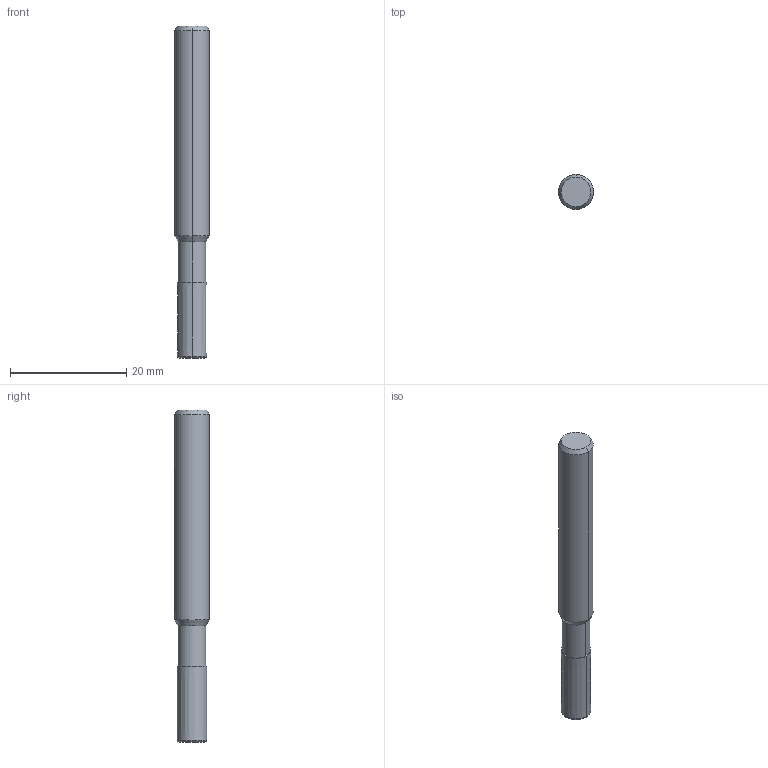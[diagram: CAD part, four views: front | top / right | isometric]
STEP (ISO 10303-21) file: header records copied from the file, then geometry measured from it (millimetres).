
FILE_DESCRIPTION(('no description'),'unknown implementation level');
FILE_NAME('solidU37TX7vC5QPdXcSA_AzkCPL2cmQ_1.STP',' ',('CIMSOURCE GmbH'),('CADClick - KiM GmbH - www.kimweb.de'),'unknown preprocess','ACIS','unknown authorization');
FILE_SCHEMA(('automotive_design'));
Length unit declared in the file: millimetre
Products named in the file (2): NOCUT; CUT
Bounding box: 6 x 6 x 57 mm (x, y, z)
Volume: 1419.2 mm3; surface area: 1286.6 mm2
Topology: 2 solids, 2 shells, 42 faces, 95 edges, 58 vertices
Faces by surface type: cylinder 16, cone 14, plane 10, torus 2
Entity records: 2528 total; most frequent: CARTESIAN_POINT 417, DIRECTION 217, STYLED_ITEM 197, PRESENTATION_STYLE_ASSIGNMENT 197, COLOUR_RGB 197, ORIENTED_EDGE 190, EDGE_CURVE 95, CURVE_STYLE 95
